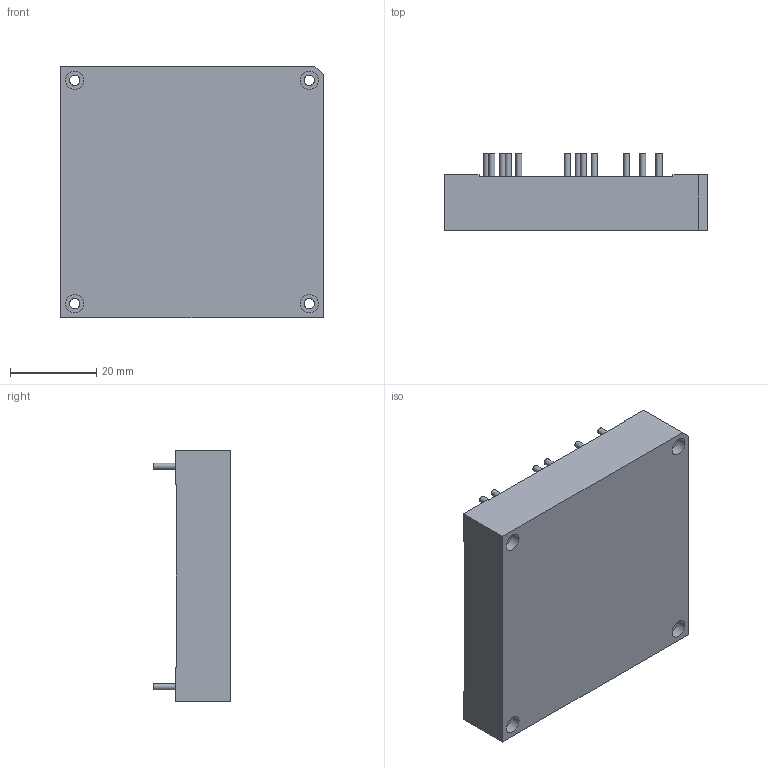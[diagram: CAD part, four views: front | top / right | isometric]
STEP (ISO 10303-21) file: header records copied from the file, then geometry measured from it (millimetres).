
FILE_DESCRIPTION(/* description */ (''),/* implementation_level */ '2;1');
FILE_NAME(/* name */ '',/* author */ (''),/* organization */ (''),/* preprocessor_version */ 'ST-DEVELOPER v18.1',/* originating_system */ '',/* authorisation */ '');
FILE_SCHEMA (('AUTOMOTIVE_DESIGN { 1 0 10303 214 3 1 1 }'));
Length unit declared in the file: millimetre
Products named in the file (1): JETDi250R_R5_case_pins
Bounding box: 61 x 17.85 x 58.4 mm (x, y, z)
Volume: 39736.9 mm3; surface area: 11335.9 mm2
Topology: 1 solids, 1 shells, 95 faces, 213 edges, 142 vertices
Faces by surface type: plane 57, cylinder 38
Full cylindrical faces by diameter (mm): 1.4 x14, 2.4 x4, 4.2 x8
Entity records: 2720 total; most frequent: DIRECTION 481, CARTESIAN_POINT 451, ORIENTED_EDGE 426, EDGE_CURVE 213, AXIS2_PLACEMENT_3D 172, VERTEX_POINT 142, LINE 137, VECTOR 137
